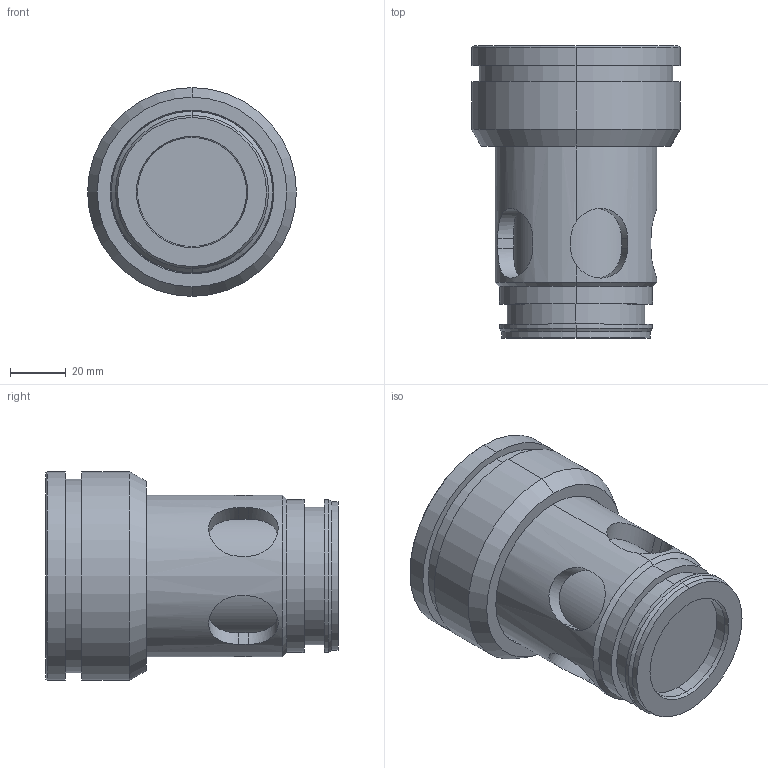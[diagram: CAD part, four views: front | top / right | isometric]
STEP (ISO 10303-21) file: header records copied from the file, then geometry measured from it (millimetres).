
FILE_DESCRIPTION (( 'STEP AP214' ), '1' );
FILE_NAME ('C.EN40-10.STEP', '2019-03-12T08:22:49', ( '' ), ( '' ), 'SwSTEP 2.0', 'SolidWorks 2018', '' );
FILE_SCHEMA (( 'AUTOMOTIVE_DESIGN' ));
Length unit declared in the file: millimetre
Products named in the file (1): C.EN40-10
Bounding box: 75 x 104.9 x 75 mm (x, y, z)
Volume: 293696.4 mm3; surface area: 35306.3 mm2
Topology: 1 solids, 1 shells, 70 faces, 155 edges, 98 vertices
Faces by surface type: cylinder 38, plane 20, cone 12
Entity records: 3642 total; most frequent: CARTESIAN_POINT 1302, DIRECTION 323, ORIENTED_EDGE 310, EDGE_CURVE 155, AXIS2_PLACEMENT_3D 123, VERTEX_POINT 98, EDGE_LOOP 81, LINE 77
